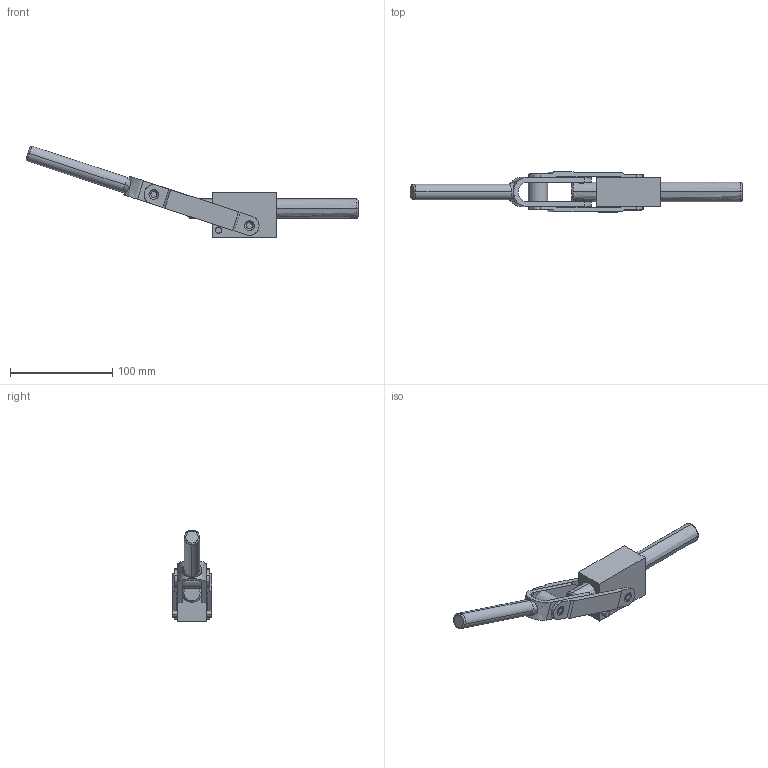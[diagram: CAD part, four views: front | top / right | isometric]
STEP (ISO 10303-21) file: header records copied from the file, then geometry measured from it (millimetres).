
FILE_DESCRIPTION( ( '' ), '1' );
FILE_NAME( 'C:\Documents and Settings\Richard Grenzke\My Documents\Wolverine Company Data\WOLVERINE CD 5_17_05\SOLIDS STEP\straight_line\c133.stp', ' ', ( '' ), ( '' ), 'ACIS Interop R16', 'Kubotek KeyCreator V5.5.1 (0454)', ' ' );
FILE_SCHEMA( ( 'CONFIG_CONTROL_DESIGN' ) );
Length unit declared in the file: inch
Products named in the file (202): 1; 2; 3; 4; 5; 6; 7; 8; 9; 10; 11; 12; 13; 14; 15; 16; 17; 18; 19; 20; 21; 22; 23; 24; 25; 26; 27; 28; 29; 30; 31; 32; 33; 34; 35; 36; 37; 38; 39; 40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
Bounding box: 325.06 x 39.12 x 89.84 mm (x, y, z)
Surface area: 54799.9 mm2 (no closed solid volume)
Topology: 0 solids, 202 shells, 202 faces, 892 edges, 892 vertices
Faces by surface type: bspline 202
Entity records: 19384 total; most frequent: CARTESIAN_POINT 3744, DIRECTION 1536, CC_DESIGN_PERSON_AND_ORGANIZATION_ASSIGNMENT 1010, ORIENTED_EDGE 892, EDGE_CURVE 892, VERTEX_POINT 892, PERSON_AND_ORGANIZATION_ROLE 808, AXIS2_PLACEMENT_3D 600
